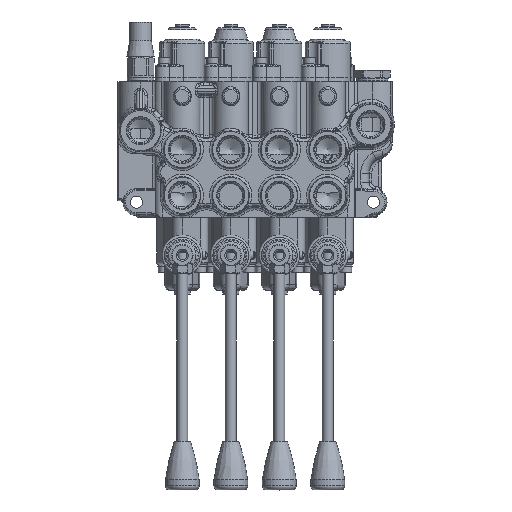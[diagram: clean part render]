
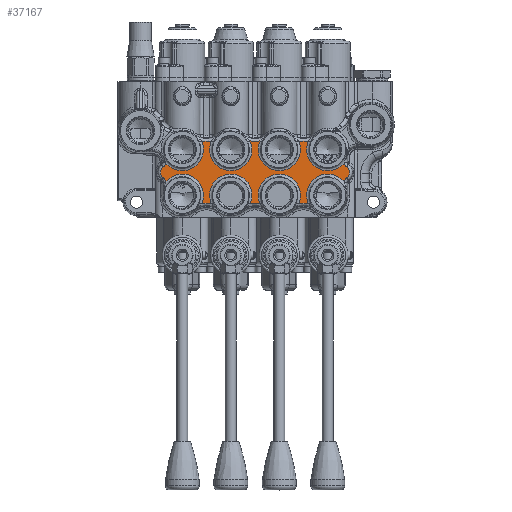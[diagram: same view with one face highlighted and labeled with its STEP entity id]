
A CAD part, top view. The second image highlights one B-rep face of the part: STEP entity #37167.
In plain terms, the highlighted planar face has unit normal (0, 0, 1).
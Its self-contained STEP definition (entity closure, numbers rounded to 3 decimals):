
#6437=PLANE('',#40807);
#7939=FACE_OUTER_BOUND('',#10152,.T.);
#10152=EDGE_LOOP('',(#29016,#29017,#29018,#29019,#29020,#29021,#29022,#29023,
#29024,#29025,#29026,#29027,#29028,#29029,#29030,#29031,#29032,#29033,#29034,
#29035));
#12239=CIRCLE('',#40000,15.749);
#12248=CIRCLE('',#40010,15.749);
#12289=CIRCLE('',#40074,15.749);
#12298=CIRCLE('',#40084,15.749);
#12310=CIRCLE('',#40107,16.898);
#12313=CIRCLE('',#40111,16.898);
#12479=CIRCLE('',#40410,15.749);
#12484=CIRCLE('',#40416,4.398);
#12488=CIRCLE('',#40421,5.102);
#12490=CIRCLE('',#40424,4.398);
#12492=CIRCLE('',#40427,15.749);
#12594=CIRCLE('',#40598,16.898);
#12595=CIRCLE('',#40600,16.898);
#12711=CIRCLE('',#40776,4.398);
#12714=CIRCLE('',#40780,5.102);
#12717=CIRCLE('',#40784,4.898);
#12737=CIRCLE('',#40808,16.898);
#12738=CIRCLE('',#40809,16.898);
#12739=CIRCLE('',#40810,15.749);
#12740=CIRCLE('',#40811,15.749);
#15277=VERTEX_POINT('',#68010);
#15281=VERTEX_POINT('',#68157);
#15285=VERTEX_POINT('',#68348);
#15289=VERTEX_POINT('',#68489);
#15341=VERTEX_POINT('',#69985);
#15345=VERTEX_POINT('',#70132);
#15349=VERTEX_POINT('',#70323);
#15353=VERTEX_POINT('',#70464);
#15668=VERTEX_POINT('',#77496);
#15669=VERTEX_POINT('',#77507);
#15672=VERTEX_POINT('',#77515);
#15674=VERTEX_POINT('',#77522);
#15676=VERTEX_POINT('',#77527);
#15677=VERTEX_POINT('',#77532);
#15916=VERTEX_POINT('',#85191);
#15918=VERTEX_POINT('',#85212);
#15920=VERTEX_POINT('',#85218);
#15922=VERTEX_POINT('',#85224);
#15948=VERTEX_POINT('',#85951);
#15949=VERTEX_POINT('',#85953);
#19647=EDGE_CURVE('',#15277,#15281,#12239,.T.);
#19660=EDGE_CURVE('',#15289,#15285,#12248,.T.);
#19760=EDGE_CURVE('',#15341,#15345,#12289,.T.);
#19773=EDGE_CURVE('',#15353,#15349,#12298,.T.);
#19807=EDGE_CURVE('',#15285,#15353,#12310,.T.);
#19813=EDGE_CURVE('',#15345,#15277,#12313,.T.);
#20286=EDGE_CURVE('',#15669,#15668,#12479,.T.);
#20291=EDGE_CURVE('',#15668,#15672,#12484,.T.);
#20295=EDGE_CURVE('',#15672,#15674,#12488,.F.);
#20297=EDGE_CURVE('',#15674,#15676,#12490,.T.);
#20299=EDGE_CURVE('',#15676,#15677,#12492,.T.);
#20525=EDGE_CURVE('',#15677,#15341,#12594,.T.);
#20526=EDGE_CURVE('',#15349,#15669,#12595,.T.);
#20783=EDGE_CURVE('',#15918,#15916,#12711,.T.);
#20786=EDGE_CURVE('',#15920,#15918,#12714,.F.);
#20789=EDGE_CURVE('',#15922,#15920,#12717,.T.);
#20824=EDGE_CURVE('',#15948,#15289,#12737,.T.);
#20825=EDGE_CURVE('',#15281,#15949,#12738,.T.);
#20826=EDGE_CURVE('',#15949,#15922,#12739,.T.);
#20827=EDGE_CURVE('',#15916,#15948,#12740,.T.);
#29016=ORIENTED_EDGE('',*,*,#20824,.T.);
#29017=ORIENTED_EDGE('',*,*,#19660,.T.);
#29018=ORIENTED_EDGE('',*,*,#19807,.T.);
#29019=ORIENTED_EDGE('',*,*,#19773,.T.);
#29020=ORIENTED_EDGE('',*,*,#20526,.T.);
#29021=ORIENTED_EDGE('',*,*,#20286,.T.);
#29022=ORIENTED_EDGE('',*,*,#20291,.T.);
#29023=ORIENTED_EDGE('',*,*,#20295,.T.);
#29024=ORIENTED_EDGE('',*,*,#20297,.T.);
#29025=ORIENTED_EDGE('',*,*,#20299,.T.);
#29026=ORIENTED_EDGE('',*,*,#20525,.T.);
#29027=ORIENTED_EDGE('',*,*,#19760,.T.);
#29028=ORIENTED_EDGE('',*,*,#19813,.T.);
#29029=ORIENTED_EDGE('',*,*,#19647,.T.);
#29030=ORIENTED_EDGE('',*,*,#20825,.T.);
#29031=ORIENTED_EDGE('',*,*,#20826,.T.);
#29032=ORIENTED_EDGE('',*,*,#20789,.T.);
#29033=ORIENTED_EDGE('',*,*,#20786,.T.);
#29034=ORIENTED_EDGE('',*,*,#20783,.T.);
#29035=ORIENTED_EDGE('',*,*,#20827,.T.);
#37167=ADVANCED_FACE('',(#7939),#6437,.F.);
#40000=AXIS2_PLACEMENT_3D('',#68159,#46799,#46800);
#40010=AXIS2_PLACEMENT_3D('',#68495,#46819,#46820);
#40074=AXIS2_PLACEMENT_3D('',#70134,#46963,#46964);
#40084=AXIS2_PLACEMENT_3D('',#70470,#46983,#46984);
#40107=AXIS2_PLACEMENT_3D('',#71123,#47037,#47038);
#40111=AXIS2_PLACEMENT_3D('',#71166,#47045,#47046);
#40410=AXIS2_PLACEMENT_3D('',#77508,#47748,#47749);
#40416=AXIS2_PLACEMENT_3D('',#77517,#47760,#47761);
#40421=AXIS2_PLACEMENT_3D('',#77524,#47770,#47771);
#40424=AXIS2_PLACEMENT_3D('',#77529,#47776,#47777);
#40427=AXIS2_PLACEMENT_3D('',#77533,#47782,#47783);
#40598=AXIS2_PLACEMENT_3D('',#81403,#48152,#48153);
#40600=AXIS2_PLACEMENT_3D('',#81405,#48156,#48157);
#40776=AXIS2_PLACEMENT_3D('',#85216,#48540,#48541);
#40780=AXIS2_PLACEMENT_3D('',#85222,#48548,#48549);
#40784=AXIS2_PLACEMENT_3D('',#85228,#48556,#48557);
#40807=AXIS2_PLACEMENT_3D('',#85950,#48602,#48603);
#40808=AXIS2_PLACEMENT_3D('',#85952,#48604,#48605);
#40809=AXIS2_PLACEMENT_3D('',#85954,#48606,#48607);
#40810=AXIS2_PLACEMENT_3D('',#85955,#48608,#48609);
#40811=AXIS2_PLACEMENT_3D('',#85956,#48610,#48611);
#46799=DIRECTION('center_axis',(0.,0.,-1.));
#46800=DIRECTION('ref_axis',(-1.,0.,0.));
#46819=DIRECTION('center_axis',(0.,0.,-1.));
#46820=DIRECTION('ref_axis',(-1.,0.,0.));
#46963=DIRECTION('center_axis',(0.,0.,-1.));
#46964=DIRECTION('ref_axis',(-1.,0.,0.));
#46983=DIRECTION('center_axis',(0.,0.,-1.));
#46984=DIRECTION('ref_axis',(-1.,0.,0.));
#47037=DIRECTION('center_axis',(0.,0.,-1.));
#47038=DIRECTION('ref_axis',(-1.,0.,0.));
#47045=DIRECTION('center_axis',(0.,0.,-1.));
#47046=DIRECTION('ref_axis',(-1.,0.,0.));
#47748=DIRECTION('center_axis',(0.,0.,-1.));
#47749=DIRECTION('ref_axis',(-1.,0.,0.));
#47760=DIRECTION('center_axis',(0.,0.,-1.));
#47761=DIRECTION('ref_axis',(-1.,0.,0.));
#47770=DIRECTION('center_axis',(0.,0.,-1.));
#47771=DIRECTION('ref_axis',(-1.,0.,0.));
#47776=DIRECTION('center_axis',(0.,0.,-1.));
#47777=DIRECTION('ref_axis',(-1.,0.,0.));
#47782=DIRECTION('center_axis',(0.,0.,-1.));
#47783=DIRECTION('ref_axis',(-1.,0.,0.));
#48152=DIRECTION('center_axis',(0.,0.,-1.));
#48153=DIRECTION('ref_axis',(-1.,0.,0.));
#48156=DIRECTION('center_axis',(0.,0.,-1.));
#48157=DIRECTION('ref_axis',(-1.,0.,0.));
#48540=DIRECTION('center_axis',(0.,0.,-1.));
#48541=DIRECTION('ref_axis',(-1.,0.,0.));
#48548=DIRECTION('center_axis',(0.,0.,-1.));
#48549=DIRECTION('ref_axis',(-1.,0.,0.));
#48556=DIRECTION('center_axis',(0.,0.,-1.));
#48557=DIRECTION('ref_axis',(-1.,0.,0.));
#48602=DIRECTION('center_axis',(0.,0.,-1.));
#48603=DIRECTION('ref_axis',(-1.,0.,0.));
#48604=DIRECTION('center_axis',(0.,0.,-1.));
#48605=DIRECTION('ref_axis',(-1.,0.,0.));
#48606=DIRECTION('center_axis',(0.,0.,-1.));
#48607=DIRECTION('ref_axis',(-1.,0.,0.));
#48608=DIRECTION('center_axis',(0.,0.,-1.));
#48609=DIRECTION('ref_axis',(-1.,0.,0.));
#48610=DIRECTION('center_axis',(0.,0.,-1.));
#48611=DIRECTION('ref_axis',(-1.,0.,0.));
#68010=CARTESIAN_POINT('',(50.411,6.353,39.5));
#68157=CARTESIAN_POINT('',(21.589,6.353,39.5));
#68159=CARTESIAN_POINT('Origin',(36.,0.,39.5));
#68348=CARTESIAN_POINT('',(50.411,-40.353,39.5));
#68489=CARTESIAN_POINT('',(21.589,-40.353,39.5));
#68495=CARTESIAN_POINT('Origin',(36.,-34.,39.5));
#69985=CARTESIAN_POINT('',(86.411,6.353,39.5));
#70132=CARTESIAN_POINT('',(57.589,6.353,39.5));
#70134=CARTESIAN_POINT('Origin',(72.,0.,39.5));
#70323=CARTESIAN_POINT('',(86.411,-40.353,39.5));
#70464=CARTESIAN_POINT('',(57.589,-40.353,39.5));
#70470=CARTESIAN_POINT('Origin',(72.,-34.,39.5));
#71123=CARTESIAN_POINT('Origin',(54.,-56.865,39.5));
#71166=CARTESIAN_POINT('Origin',(54.,22.865,39.5));
#77496=CARTESIAN_POINT('',(120.241,-24.091,39.5));
#77507=CARTESIAN_POINT('',(93.589,-40.353,39.5));
#77508=CARTESIAN_POINT('Origin',(108.,-34.,39.5));
#77515=CARTESIAN_POINT('',(122.008,-21.121,39.5));
#77517=CARTESIAN_POINT('Origin',(124.6,-24.674,39.5));
#77522=CARTESIAN_POINT('',(122.008,-12.879,39.5));
#77524=CARTESIAN_POINT('Origin',(119.,-17.,39.5));
#77527=CARTESIAN_POINT('',(120.241,-9.909,39.5));
#77529=CARTESIAN_POINT('Origin',(124.6,-9.326,39.5));
#77532=CARTESIAN_POINT('',(93.589,6.353,39.5));
#77533=CARTESIAN_POINT('Origin',(108.,0.,39.5));
#81403=CARTESIAN_POINT('Origin',(90.,22.865,39.5));
#81405=CARTESIAN_POINT('Origin',(90.,-56.865,39.5));
#85191=CARTESIAN_POINT('',(-12.241,-24.091,39.5));
#85212=CARTESIAN_POINT('',(-14.008,-21.121,39.5));
#85216=CARTESIAN_POINT('Origin',(-16.6,-24.674,39.5));
#85218=CARTESIAN_POINT('',(-14.125,-12.967,39.5));
#85222=CARTESIAN_POINT('Origin',(-11.,-17.,39.5));
#85224=CARTESIAN_POINT('',(-12.286,-9.852,39.5));
#85228=CARTESIAN_POINT('Origin',(-17.125,-9.096,39.5));
#85950=CARTESIAN_POINT('Origin',(36.,-34.,39.5));
#85951=CARTESIAN_POINT('',(14.411,-40.353,39.5));
#85952=CARTESIAN_POINT('Origin',(18.,-56.865,39.5));
#85953=CARTESIAN_POINT('',(14.411,6.353,39.5));
#85954=CARTESIAN_POINT('Origin',(18.,22.865,39.5));
#85955=CARTESIAN_POINT('Origin',(0.,0.,39.5));
#85956=CARTESIAN_POINT('Origin',(0.,-34.,39.5));
